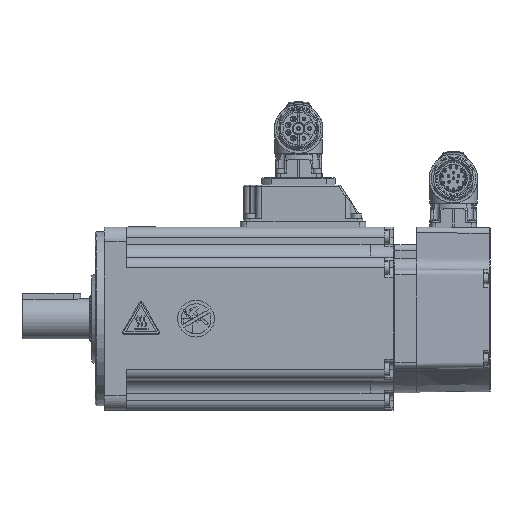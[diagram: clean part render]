
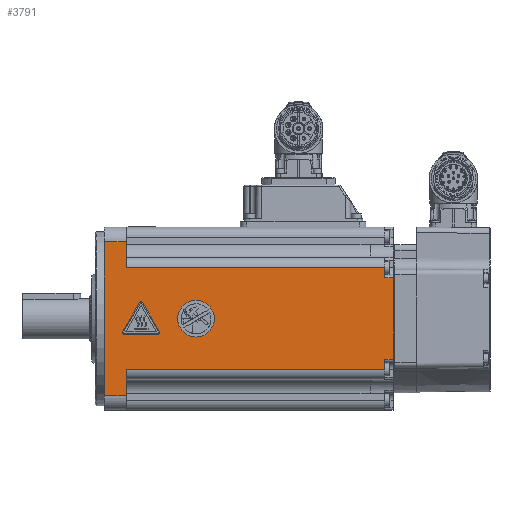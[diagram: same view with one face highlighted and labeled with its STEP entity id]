
A CAD part, front view. The second image highlights one B-rep face of the part: STEP entity #3791.
In plain terms, the highlighted planar face has unit normal (0, -1, 0).
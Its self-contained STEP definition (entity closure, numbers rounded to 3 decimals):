
#3791 = ADVANCED_FACE( '', ( #10067, #10068, #10069 ), #10070, .T. );
#10067 = FACE_BOUND( '', #20612, .T. );
#10068 = FACE_OUTER_BOUND( '', #20613, .T. );
#10069 = FACE_BOUND( '', #20614, .T. );
#10070 = PLANE( '', #20615 );
#20612 = EDGE_LOOP( '', ( #38254 ) );
#20613 = EDGE_LOOP( '', ( #38255, #38256, #38257, #38258, #38259, #38260, #38261, #38262, #38263, #38264, #38265, #38266, #38267 ) );
#20614 = EDGE_LOOP( '', ( #38268, #38269, #38270, #38271, #38272, #38273 ) );
#20615 = AXIS2_PLACEMENT_3D( '', #38274, #38275, #38276 );
#38254 = ORIENTED_EDGE( '', *, *, #60467, .F. );
#38255 = ORIENTED_EDGE( '', *, *, #60077, .T. );
#38256 = ORIENTED_EDGE( '', *, *, #60468, .T. );
#38257 = ORIENTED_EDGE( '', *, *, #60469, .T. );
#38258 = ORIENTED_EDGE( '', *, *, #60470, .T. );
#38259 = ORIENTED_EDGE( '', *, *, #60471, .T. );
#38260 = ORIENTED_EDGE( '', *, *, #60472, .T. );
#38261 = ORIENTED_EDGE( '', *, *, #60473, .T. );
#38262 = ORIENTED_EDGE( '', *, *, #60474, .T. );
#38263 = ORIENTED_EDGE( '', *, *, #60475, .F. );
#38264 = ORIENTED_EDGE( '', *, *, #60476, .T. );
#38265 = ORIENTED_EDGE( '', *, *, #60477, .T. );
#38266 = ORIENTED_EDGE( '', *, *, #60478, .T. );
#38267 = ORIENTED_EDGE( '', *, *, #60479, .F. );
#38268 = ORIENTED_EDGE( '', *, *, #60480, .F. );
#38269 = ORIENTED_EDGE( '', *, *, #60481, .F. );
#38270 = ORIENTED_EDGE( '', *, *, #60482, .F. );
#38271 = ORIENTED_EDGE( '', *, *, #60483, .F. );
#38272 = ORIENTED_EDGE( '', *, *, #60484, .F. );
#38273 = ORIENTED_EDGE( '', *, *, #60485, .F. );
#38274 = CARTESIAN_POINT( '', ( 93.642, -50., -50. ) );
#38275 = DIRECTION( '', ( 0., -1., 0. ) );
#38276 = DIRECTION( '', ( 1., 0., 0. ) );
#60077 = EDGE_CURVE( '', #71031, #71029, #71032, .T. );
#60467 = EDGE_CURVE( '', #71683, #71683, #71684, .T. );
#60468 = EDGE_CURVE( '', #71029, #71685, #71686, .T. );
#60469 = EDGE_CURVE( '', #71685, #71687, #71688, .F. );
#60470 = EDGE_CURVE( '', #71687, #71689, #71690, .T. );
#60471 = EDGE_CURVE( '', #71689, #71691, #71692, .T. );
#60472 = EDGE_CURVE( '', #71691, #71693, #71694, .F. );
#60473 = EDGE_CURVE( '', #71693, #71695, #71696, .T. );
#60474 = EDGE_CURVE( '', #71695, #71697, #71698, .T. );
#60475 = EDGE_CURVE( '', #71699, #71697, #71700, .T. );
#60476 = EDGE_CURVE( '', #71699, #71701, #71702, .T. );
#60477 = EDGE_CURVE( '', #71701, #71703, #71704, .T. );
#60478 = EDGE_CURVE( '', #71703, #71705, #71706, .F. );
#60479 = EDGE_CURVE( '', #71031, #71705, #71707, .T. );
#60480 = EDGE_CURVE( 'NONE', #71708, #71709, #71710, .T. );
#60481 = EDGE_CURVE( 'NONE', #71711, #71708, #71712, .T. );
#60482 = EDGE_CURVE( 'NONE', #71713, #71711, #71714, .T. );
#60483 = EDGE_CURVE( 'NONE', #71715, #71713, #71716, .T. );
#60484 = EDGE_CURVE( 'NONE', #71717, #71715, #71718, .T. );
#60485 = EDGE_CURVE( 'NONE', #71709, #71717, #71719, .T. );
#71029 = VERTEX_POINT( '', #88762 );
#71031 = VERTEX_POINT( '', #88764 );
#71032 = LINE( '', #88765, #88766 );
#71683 = VERTEX_POINT( '', #90057 );
#71684 = CIRCLE( '', #90058, 10. );
#71685 = VERTEX_POINT( '', #90059 );
#71686 = LINE( '', #90060, #90061 );
#71687 = VERTEX_POINT( '', #90062 );
#71688 = LINE( '', #90063, #90064 );
#71689 = VERTEX_POINT( '', #90065 );
#71690 = LINE( '', #90066, #90067 );
#71691 = VERTEX_POINT( '', #90068 );
#71692 = LINE( '', #90069, #90070 );
#71693 = VERTEX_POINT( '', #90071 );
#71694 = LINE( '', #90072, #90073 );
#71695 = VERTEX_POINT( '', #90074 );
#71696 = LINE( '', #90075, #90076 );
#71697 = VERTEX_POINT( '', #90077 );
#71698 = LINE( '', #90078, #90079 );
#71699 = VERTEX_POINT( '', #90080 );
#71700 = LINE( '', #90081, #90082 );
#71701 = VERTEX_POINT( '', #90083 );
#71702 = LINE( '', #90084, #90085 );
#71703 = VERTEX_POINT( '', #90086 );
#71704 = LINE( '', #90087, #90088 );
#71705 = VERTEX_POINT( '', #90089 );
#71706 = LINE( '', #90090, #90091 );
#71707 = LINE( '', #90092, #90093 );
#71708 = VERTEX_POINT( 'NONE', #90094 );
#71709 = VERTEX_POINT( 'NONE', #90095 );
#71710 = CIRCLE( '', #90096, 1. );
#71711 = VERTEX_POINT( 'NONE', #90097 );
#71712 = LINE( '', #90098, #90099 );
#71713 = VERTEX_POINT( 'NONE', #90100 );
#71714 = CIRCLE( '', #90101, 1. );
#71715 = VERTEX_POINT( '', #90102 );
#71716 = LINE( '', #90103, #90104 );
#71717 = VERTEX_POINT( 'NONE', #90105 );
#71718 = CIRCLE( '', #90106, 1. );
#71719 = LINE( '', #90107, #90108 );
#88762 = CARTESIAN_POINT( '', ( -13.25, -50., -27.75 ) );
#88764 = CARTESIAN_POINT( '', ( -154.25, -50., -27.75 ) );
#88765 = CARTESIAN_POINT( '', ( 93.642, -50., -27.75 ) );
#88766 = VECTOR( '', #111150, 1000. );
#90057 = CARTESIAN_POINT( '', ( -116.25, -50., -10. ) );
#90058 = AXIS2_PLACEMENT_3D( '', #111636, #111637, #111638 );
#90059 = CARTESIAN_POINT( '', ( -13.25, -50., -22.25 ) );
#90060 = CARTESIAN_POINT( '', ( -13.25, -50., 50. ) );
#90061 = VECTOR( '', #111639, 1000. );
#90062 = CARTESIAN_POINT( '', ( -8.444, -50., -22.25 ) );
#90063 = CARTESIAN_POINT( '', ( -8.25, -50., -22.25 ) );
#90064 = VECTOR( '', #111640, 1000. );
#90065 = CARTESIAN_POINT( '', ( -8.25, -50., 0. ) );
#90066 = CARTESIAN_POINT( '', ( -7.818, -50., 49.545 ) );
#90067 = VECTOR( '', #111641, 1000. );
#90068 = CARTESIAN_POINT( '', ( -8.444, -50., 22.25 ) );
#90069 = CARTESIAN_POINT( '', ( -8.69, -50., 50.448 ) );
#90070 = VECTOR( '', #111642, 1000. );
#90071 = CARTESIAN_POINT( '', ( -13.25, -50., 22.25 ) );
#90072 = CARTESIAN_POINT( '', ( -13.25, -50., 22.25 ) );
#90073 = VECTOR( '', #111643, 1000. );
#90074 = CARTESIAN_POINT( '', ( -13.25, -50., 27.75 ) );
#90075 = CARTESIAN_POINT( '', ( -13.25, -50., 50. ) );
#90076 = VECTOR( '', #111644, 1000. );
#90077 = CARTESIAN_POINT( '', ( -154.25, -50., 27.75 ) );
#90078 = CARTESIAN_POINT( '', ( 93.642, -50., 27.75 ) );
#90079 = VECTOR( '', #111645, 1000. );
#90080 = CARTESIAN_POINT( '', ( -154.25, -50., 42. ) );
#90081 = CARTESIAN_POINT( '', ( -154.25, -50., -50. ) );
#90082 = VECTOR( '', #111646, 1000. );
#90083 = CARTESIAN_POINT( '', ( -166.25, -50., 42. ) );
#90084 = CARTESIAN_POINT( '', ( 93.642, -50., 42. ) );
#90085 = VECTOR( '', #111647, 1000. );
#90086 = CARTESIAN_POINT( '', ( -166.25, -50., -42. ) );
#90087 = CARTESIAN_POINT( '', ( -166.25, -50., -50. ) );
#90088 = VECTOR( '', #111648, 1000. );
#90089 = CARTESIAN_POINT( '', ( -154.25, -50., -42. ) );
#90090 = CARTESIAN_POINT( '', ( 93.642, -50., -42. ) );
#90091 = VECTOR( '', #111649, 1000. );
#90092 = CARTESIAN_POINT( '', ( -154.25, -50., -50. ) );
#90093 = VECTOR( '', #111650, 1000. );
#90094 = CARTESIAN_POINT( '', ( -156.249, -50., -7. ) );
#90095 = CARTESIAN_POINT( '', ( -155.383, -50., -8.5 ) );
#90096 = AXIS2_PLACEMENT_3D( '', #111651, #111652, #111653 );
#90097 = CARTESIAN_POINT( '', ( -147.116, -50., 8.801 ) );
#90098 = CARTESIAN_POINT( '', ( -156.249, -50., -7. ) );
#90099 = VECTOR( '', #111654, 1000. );
#90100 = CARTESIAN_POINT( '', ( -145.384, -50., 8.801 ) );
#90101 = AXIS2_PLACEMENT_3D( '', #111655, #111656, #111657 );
#90102 = CARTESIAN_POINT( '', ( -136.251, -50., -7. ) );
#90103 = CARTESIAN_POINT( '', ( -145.384, -50., 8.801 ) );
#90104 = VECTOR( '', #111658, 1000. );
#90105 = CARTESIAN_POINT( '', ( -137.117, -50., -8.5 ) );
#90106 = AXIS2_PLACEMENT_3D( '', #111659, #111660, #111661 );
#90107 = CARTESIAN_POINT( '', ( -155.383, -50., -8.5 ) );
#90108 = VECTOR( '', #111662, 1000. );
#111150 = DIRECTION( '', ( 1., 0., 0. ) );
#111636 = CARTESIAN_POINT( '', ( -116.25, -50., 0. ) );
#111637 = DIRECTION( '', ( 0., -1., 0. ) );
#111638 = DIRECTION( '', ( 0., 0., -1. ) );
#111639 = DIRECTION( '', ( 0., 0., 1. ) );
#111640 = DIRECTION( '', ( -1., 0., 0. ) );
#111641 = DIRECTION( '', ( 0.009, 0., 1. ) );
#111642 = DIRECTION( '', ( -0.009, 0., 1. ) );
#111643 = DIRECTION( '', ( 1., 0., 0. ) );
#111644 = DIRECTION( '', ( 0., 0., 1. ) );
#111645 = DIRECTION( '', ( -1., 0., 0. ) );
#111646 = DIRECTION( '', ( 0., 0., -1. ) );
#111647 = DIRECTION( '', ( -1., 0., 0. ) );
#111648 = DIRECTION( '', ( 0., 0., -1. ) );
#111649 = DIRECTION( '', ( -1., 0., 0. ) );
#111650 = DIRECTION( '', ( 0., 0., -1. ) );
#111651 = CARTESIAN_POINT( '', ( -155.383, -50., -7.5 ) );
#111652 = DIRECTION( '', ( 0., -1., 0. ) );
#111653 = DIRECTION( '', ( -1., 0., 0. ) );
#111654 = DIRECTION( '', ( -0.5, 0., -0.866 ) );
#111655 = CARTESIAN_POINT( '', ( -146.25, -50., 8.301 ) );
#111656 = DIRECTION( '', ( 0., -1., 0. ) );
#111657 = DIRECTION( '', ( -1., 0., 0. ) );
#111658 = DIRECTION( '', ( -0.5, 0., 0.866 ) );
#111659 = CARTESIAN_POINT( '', ( -137.117, -50., -7.5 ) );
#111660 = DIRECTION( '', ( 0., -1., 0. ) );
#111661 = DIRECTION( '', ( 1., 0., 0. ) );
#111662 = DIRECTION( '', ( 1., 0., 0. ) );
